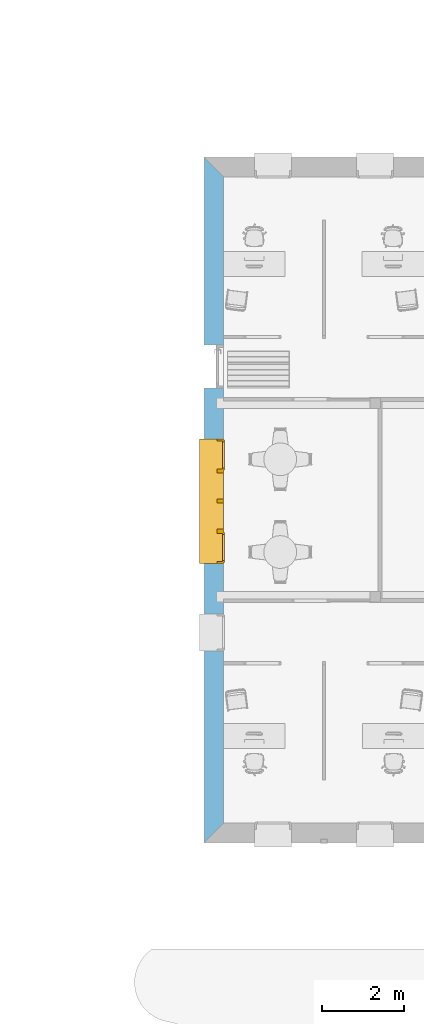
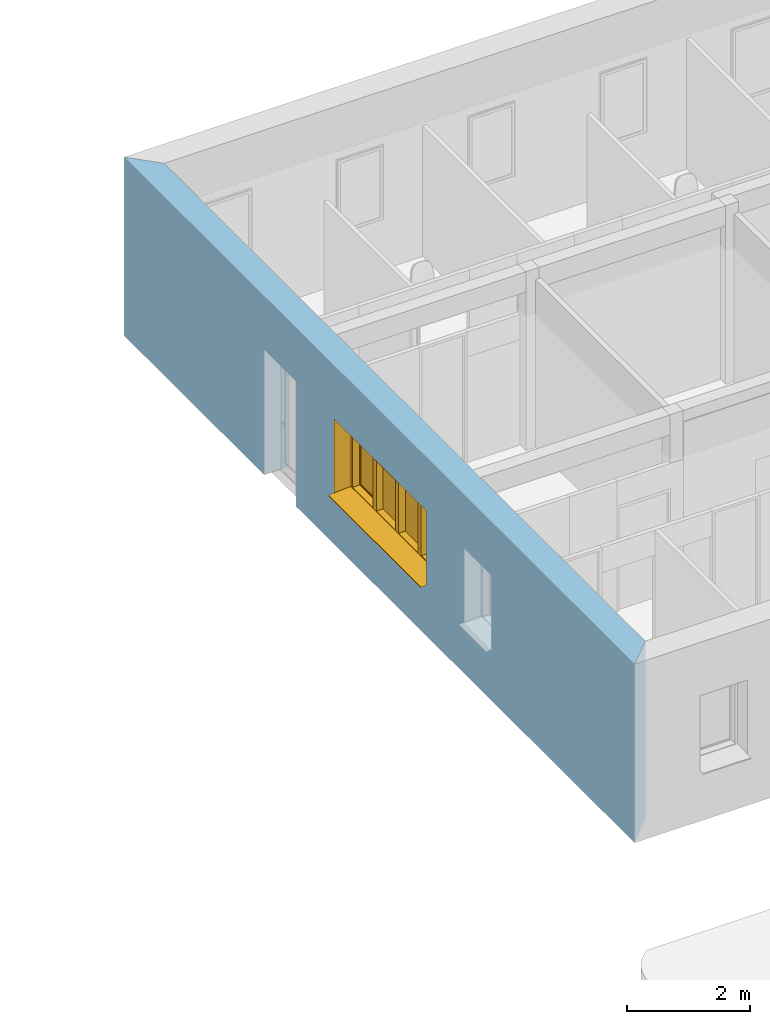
# One storey, part 38 of 91: 1 window, 3 openings, plus 1 element that does not belong to this part.
"""IFC2X3 building model written with IfcOpenShell, lengths in metres."""

from ifc_helpers import new_model, entity, si_unit, converted_unit, derived_unit, money_unit, direction, frame, origin_with_axes, origin_2d_with_axis, place, context, subcontext, project, spatial, polyline, rectangle, outline, extrude, open_shell, faceted_brep, surface_model, material, layer, layer_set, layer_usage, type_object, element, fill, save


model = new_model("IFC2X3")

# Units and contexts
model_context = context("Model", 3, precision=1e-05, world=origin_with_axes(), true_north=direction((0.0, 1.0)))
body_context = subcontext(model_context, "Body", "Model", "MODEL_VIEW")
ifc_project = project(units=[si_unit("LENGTHUNIT", "METRE"), si_unit("AREAUNIT", "SQUARE_METRE"), si_unit("VOLUMEUNIT", "CUBIC_METRE"), converted_unit("PLANEANGLEUNIT", "DEGREE", entity("IfcPlaneAngleMeasure", 0.0174532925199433), si_unit("PLANEANGLEUNIT", "RADIAN"), dimensions=[0, 0, 0, 0, 0, 0, 0]), money_unit("EUR"), converted_unit("TIMEUNIT", "Year", entity("IfcTimeMeasure", 31557600.0), si_unit("TIMEUNIT", "SECOND"), dimensions=[0, 0, 1, 0, 0, 0, 0]), si_unit("MASSUNIT", "GRAM", prefix="KILO"), si_unit("THERMODYNAMICTEMPERATUREUNIT", "DEGREE_CELSIUS"), si_unit("LUMINOUSINTENSITYUNIT", "LUMEN"), si_unit("ENERGYUNIT", "JOULE", prefix="MEGA"), derived_unit("THERMALCONDUCTANCEUNIT", [(si_unit("POWERUNIT", "WATT"), 1), (si_unit("LENGTHUNIT", "METRE"), -1), (si_unit("THERMODYNAMICTEMPERATUREUNIT", "KELVIN"), -1)]), derived_unit("SPECIFICHEATCAPACITYUNIT", [(si_unit("ENERGYUNIT", "JOULE"), 1), (si_unit("MASSUNIT", "GRAM", prefix="KILO"), -1), (si_unit("THERMODYNAMICTEMPERATUREUNIT", "KELVIN"), -1)]), derived_unit("MASSDENSITYUNIT", [(si_unit("MASSUNIT", "GRAM", prefix="KILO"), 1), (si_unit("VOLUMEUNIT", "CUBIC_METRE"), -1)])], contexts=[model_context])

# Site, building, storey
site_placement = place(None, origin_with_axes())
site = spatial("IfcSite", under=ifc_project, at=site_placement, Name="Site", CompositionType="ELEMENT")
building_placement = place(site_placement, origin_with_axes())
building = spatial("IfcBuilding", under=site, at=building_placement, Name="Bâtiment", CompositionType="ELEMENT")
storey_placement = place(building_placement, origin_with_axes())
storey = spatial("IfcBuildingStorey", under=building, at=storey_placement, Name="RDC", CompositionType="ELEMENT", Elevation=0.0)

# Wall, openings, window
ifc_material_1 = material(Name="*MÉTAL- BARDAGE")
ifc_layer_1 = layer(ifc_material_1, 0.04, ventilated="UNKNOWN")
ifc_material_2 = material(Name="Divers - Vide faux plafond")
ifc_layer_2 = layer(ifc_material_2, 0.05, ventilated="UNKNOWN")
ifc_material_3 = material(Name="Finition int - Enduit plâtre")
ifc_layer_3 = layer(ifc_material_3, 0.01, ventilated="UNKNOWN")
ifc_material_4 = material(Name="*GENERIQUE - MAÇONNERIE")
ifc_layer_4 = layer(ifc_material_4, 0.2, ventilated="UNKNOWN")
ifc_layer_5 = layer(ifc_material_3, 0.01, ventilated="UNKNOWN")
ifc_material_5 = material(Name="Vide pour liteaux")
ifc_layer_6 = layer(ifc_material_5, 0.01, ventilated="UNKNOWN")
ifc_material_6 = material(Name="*GENERIQUE - ISOLATION PLANCHER")
ifc_layer_7 = layer(ifc_material_6, 0.14, ventilated="UNKNOWN")
ifc_material_7 = material(Name="*PLAQUE DE PLATRE - DOUBLAGE")
ifc_layer_8 = layer(ifc_material_7, 0.018, ventilated="UNKNOWN")
ifc_layer_set = layer_set([ifc_layer_1, ifc_layer_2, ifc_layer_3, ifc_layer_4, ifc_layer_5, ifc_layer_6, ifc_layer_7, ifc_layer_8], Name="*MACONNERIE ITI BARDAGE METAL")
ifc_layer_usage = layer_usage(ifc_layer_set, "AXIS2", "POSITIVE", -0.478)
wall_type = type_object("IfcWallType", Name="*MACONNERIE ITI BARDAGE METAL 478", PredefinedType="NOTDEFINED")
wall_placement = place(storey_placement, frame((25.09999999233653, -11.25756213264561, 0.0), z_axis=(0.0, 0.0, 1.0), x_axis=(0.0, -1.0, 0.0)))
wall = element("IfcWallStandardCase", 1, at=wall_placement, inside=storey, type_object=wall_type, material=ifc_layer_usage, Name="Mur maçonné + ITI + véture métallique", context=body_context, shape_type="SweptSolid", body=[
    extrude(outline(polyline([(-0.477999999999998, -0.4780000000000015), (16.17800002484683, -0.4780000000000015), (15.70000002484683, 0.0), (0.0, 0.0), (-0.477999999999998, -0.4780000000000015)])), origin_with_axes(), (0.0, 0.0, 1.0), 3.56),
])
opening_1_placement = place(wall_placement, frame((7.877000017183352, 0.0, 1.0), z_axis=(0.0, 0.0, 1.0), x_axis=(1.0, 0.0, 0.0)))
opening_1 = element("IfcOpeningElement", 2, at=opening_1_placement, cuts=wall, Name="ME.04", context=body_context, shape_type="SweptSolid", body=[
    extrude(rectangle(XDim=3.027999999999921, YDim=1.5, at=origin_2d_with_axis()), frame((0.0, -0.1580000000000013, 0.75), z_axis=(0.0, -1.0, 0.0), x_axis=(-1.0, 0.0, 0.0)), (0.0, 0.0, 1.0), 0.798),
    extrude(rectangle(XDim=3.027999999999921, YDim=1.5, at=origin_2d_with_axis()), frame((0.0, -0.1580000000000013, 0.75), z_axis=(0.0, 1.0, 0.0), x_axis=(-1.0, 0.0, 0.0)), (0.0, 0.0, 1.0), 0.6360000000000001),
])
opening_2_placement = place(wall_placement, frame((11.06500000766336, 0.0, 1.0), z_axis=(0.0, 0.0, 1.0), x_axis=(1.0, 0.0, 0.0)))
element("IfcOpeningElement", 3, at=opening_2_placement, cuts=wall, Name="ME.01", context=body_context, shape_type="SweptSolid", body=[
    extrude(rectangle(XDim=0.8999999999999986, YDim=1.5, at=origin_2d_with_axis()), frame((0.0, -0.1580000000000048, 0.75), z_axis=(0.0, -1.0, 0.0), x_axis=(-1.0, 0.0, 0.0)), (0.0, 0.0, 1.0), 0.798),
    extrude(rectangle(XDim=0.8999999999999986, YDim=1.5, at=origin_2d_with_axis()), frame((0.0, -0.1580000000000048, 0.75), z_axis=(0.0, 1.0, 0.0), x_axis=(-1.0, 0.0, 0.0)), (0.0, 0.0, 1.0), 0.6360000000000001),
])
opening_3_placement = place(wall_placement, frame((4.610000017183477, 0.0, 0.0), z_axis=(0.0, 0.0, 1.0), x_axis=(1.0, 0.0, 0.0)))
element("IfcOpeningElement", 4, at=opening_3_placement, cuts=wall, Name="PE.03", context=body_context, shape_type="SweptSolid", body=[
    extrude(rectangle(XDim=1.049999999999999, YDim=2.5, at=origin_2d_with_axis()), frame((0.0, -0.1580000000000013, 1.25), z_axis=(0.0, -1.0, 0.0), x_axis=(1.0, 0.0, 0.0)), (0.0, 0.0, 1.0), 0.798),
    extrude(rectangle(XDim=1.049999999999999, YDim=2.5, at=origin_2d_with_axis()), frame((0.0, -0.1580000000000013, 1.25), z_axis=(0.0, 1.0, 0.0), x_axis=(1.0, 0.0, 0.0)), (0.0, 0.0, 1.0), 0.6360000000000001),
])
window_style = type_object("IfcWindowStyle", Name="Fenêtre horizontale à châssis multiples 27", ConstructionType="NOTDEFINED", OperationType="USERDEFINED", ParameterTakesPrecedence=False, Sizeable=False)
window_placement = place(opening_1_placement, frame((-1.51399999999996, 0.0, 0.0), z_axis=(0.0, 0.0, 1.0), x_axis=(1.0, 0.0, 0.0)))
window = element("IfcWindow", 5, at=window_placement, inside=storey, type_object=window_style, Name="ME.04", OverallHeight=1.5, OverallWidth=3.028, context=body_context, shape_type="SurfaceModel", body=[
    surface_model("IfcShellBasedSurfaceModel", [(3.027999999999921, -0.1590000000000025, 0.05000000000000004), (0.0, -0.1590000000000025, 0.05000000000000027), (0.0, -0.1590000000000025, 0.04000000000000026), (3.027999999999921, -0.1590000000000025, 0.04000000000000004), (0.0, -0.583000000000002, 0.01343750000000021), (3.027999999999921, -0.583000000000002, 0.01343749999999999), (0.0, -0.583000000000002, -0.006562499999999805), (3.027999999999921, -0.583000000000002, -0.006562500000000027), (0.0, -0.5730000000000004, 0.003437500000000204), (3.027999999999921, -0.5730000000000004, 0.003437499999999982)], [open_shell([[[0, 1, 2, 3]], [[3, 2, 4, 5]], [[5, 4, 6, 7]], [[7, 6, 8, 9]]])]),
    faceted_brep([(3.02499999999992, -0.4780000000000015, 0.02001547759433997), (3.02499999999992, -0.4780000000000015, 1.497), (3.02499999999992, -0.1580000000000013, 1.497), (3.02499999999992, -0.1580000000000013, 0.05000000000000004), (3.02499999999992, -0.1590000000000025, 0.05000000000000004), (3.02499999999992, -0.1590000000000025, 0.04000000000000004), (3.027999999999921, -0.4780000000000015, 0.02001547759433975), (3.027999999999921, -0.4780000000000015, 1.5), (3.027999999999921, -0.1580000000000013, 1.5), (3.027999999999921, -0.1580000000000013, 0.05000000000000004), (3.027999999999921, -0.1590000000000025, 0.05000000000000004), (3.027999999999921, -0.1590000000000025, 0.04000000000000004)], [[[0, 1, 2, 3, 4, 5]], [[6, 7, 1, 0]], [[8, 2, 1, 7]], [[3, 2, 8, 9]], [[3, 9, 10, 4]], [[4, 10, 11, 5]], [[5, 11, 6, 0]], [[11, 10, 9, 8, 7, 6]]]),
    faceted_brep([(0.0, -0.4780000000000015, 0.02001547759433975), (0.0, -0.4780000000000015, 1.5), (0.0, -0.1580000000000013, 1.5), (0.0, -0.1580000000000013, 0.05000000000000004), (0.0, -0.1590000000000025, 0.05000000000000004), (0.0, -0.1590000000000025, 0.04000000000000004), (0.003000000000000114, -0.4780000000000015, 0.02001547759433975), (0.003000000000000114, -0.4780000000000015, 1.497), (0.003000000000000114, -0.1580000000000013, 1.497), (0.003000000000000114, -0.1580000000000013, 0.05000000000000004), (0.003000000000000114, -0.1590000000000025, 0.05000000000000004), (0.003000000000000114, -0.1590000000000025, 0.04000000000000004)], [[[0, 1, 2, 3, 4, 5]], [[6, 7, 1, 0]], [[8, 2, 1, 7]], [[3, 2, 8, 9]], [[3, 9, 10, 4]], [[4, 10, 11, 5]], [[5, 11, 6, 0]], [[11, 10, 9, 8, 7, 6]]]),
    faceted_brep([(3.027999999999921, -0.1580000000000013, 1.5), (3.027999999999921, -0.4780000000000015, 1.5), (3.02499999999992, -0.4780000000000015, 1.497), (3.02499999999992, -0.1580000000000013, 1.497), (0.0, -0.1580000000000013, 1.5), (0.0, -0.4780000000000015, 1.5), (0.003000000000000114, -0.4780000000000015, 1.497), (0.003000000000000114, -0.1580000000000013, 1.497)], [[[0, 1, 2, 3]], [[4, 5, 1, 0]], [[1, 5, 6, 2]], [[3, 2, 6, 7]], [[0, 3, 7, 4]], [[7, 6, 5, 4]]]),
    faceted_brep([(3.002999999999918, 0.001999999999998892, 1.45), (3.002999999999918, -0.02299999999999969, 1.45), (2.97799999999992, -0.02299999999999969, 1.45), (2.97799999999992, -0.1580000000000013, 1.45), (3.027999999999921, -0.1580000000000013, 1.45), (3.027999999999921, 0.001999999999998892, 1.45), (3.002999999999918, 0.001999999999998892, 0.05000000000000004), (3.002999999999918, -0.02299999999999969, 0.05000000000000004), (2.97799999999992, -0.02299999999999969, 0.05000000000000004), (2.97799999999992, -0.1580000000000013, 0.05000000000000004), (3.027999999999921, -0.1580000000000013, 0.05000000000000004), (3.027999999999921, 0.001999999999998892, 0.05000000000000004)], [[[0, 1, 2, 3, 4, 5]], [[1, 0, 6, 7]], [[8, 2, 1, 7]], [[2, 8, 9, 3]], [[4, 3, 9, 10]], [[5, 4, 10, 11]], [[6, 0, 5, 11]], [[7, 6, 11, 10, 9, 8]]]),
    faceted_brep([(0.05000000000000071, -0.02299999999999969, 1.45), (0.02500000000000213, -0.02299999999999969, 1.45), (0.02500000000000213, 0.001999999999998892, 1.45), (0.0, 0.001999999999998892, 1.45), (0.0, -0.1580000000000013, 1.45), (0.05000000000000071, -0.1580000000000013, 1.45), (0.05000000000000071, -0.02299999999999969, 0.05000000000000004), (0.02500000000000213, -0.02299999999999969, 0.05000000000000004), (0.02500000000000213, 0.001999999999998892, 0.05000000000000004), (0.0, 0.001999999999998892, 0.05000000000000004), (0.0, -0.1580000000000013, 0.05000000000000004), (0.05000000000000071, -0.1580000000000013, 0.05000000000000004)], [[[0, 1, 2, 3, 4, 5]], [[1, 0, 6, 7]], [[8, 2, 1, 7]], [[2, 8, 9, 3]], [[9, 10, 4, 3]], [[10, 11, 5, 4]], [[6, 0, 5, 11]], [[7, 6, 11, 10, 9, 8]]]),
    faceted_brep([(3.002999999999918, 0.001999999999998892, 1.45), (3.002999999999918, 0.001999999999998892, 1.475), (2.27099999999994, 0.001999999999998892, 1.475), (2.27099999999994, 0.001999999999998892, 1.45), (2.195999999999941, 0.001999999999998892, 1.45), (1.563999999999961, 0.001999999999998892, 1.45), (1.46399999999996, 0.001999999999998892, 1.45), (0.8319999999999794, 0.001999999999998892, 1.45), (0.7569999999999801, 0.001999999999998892, 1.45), (0.7569999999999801, 0.001999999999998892, 1.475), (0.02500000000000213, 0.001999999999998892, 1.475), (0.02500000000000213, 0.001999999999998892, 1.45), (0.0, 0.001999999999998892, 1.45), (0.0, 0.001999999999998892, 1.5), (3.027999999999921, 0.001999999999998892, 1.5), (3.027999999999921, 0.001999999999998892, 1.45), (3.002999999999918, -0.02299999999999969, 1.45), (3.002999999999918, -0.02300000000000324, 1.475), (2.27099999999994, -0.02299999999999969, 1.475), (2.27099999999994, -0.02299999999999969, 1.45), (2.295999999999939, -0.02299999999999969, 1.45), (2.295999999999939, -0.1580000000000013, 1.45), (2.195999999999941, -0.1580000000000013, 1.45), (1.563999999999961, -0.1580000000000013, 1.45), (1.46399999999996, -0.1580000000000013, 1.45), (0.8319999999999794, -0.1580000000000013, 1.45), (0.7569999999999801, -0.02299999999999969, 1.45), (0.7319999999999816, -0.1580000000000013, 1.45), (0.7319999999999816, -0.02299999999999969, 1.45), (0.7569999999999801, -0.02299999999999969, 1.475), (0.02500000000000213, -0.02299999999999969, 1.475), (0.02500000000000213, -0.02299999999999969, 1.45), (0.05000000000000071, -0.02299999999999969, 1.45), (0.05000000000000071, -0.1580000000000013, 1.45), (0.0, -0.1580000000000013, 1.45), (0.0, -0.1580000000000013, 1.5), (3.027999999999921, -0.1580000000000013, 1.5), (3.027999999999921, -0.1580000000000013, 1.45), (2.97799999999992, -0.1580000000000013, 1.45), (2.97799999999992, -0.02299999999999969, 1.45)], [[[0, 1, 2, 3, 4, 5, 6, 7, 8, 9, 10, 11, 12, 13, 14, 15]], [[1, 0, 16, 17]], [[2, 1, 17, 18]], [[3, 2, 18, 19]], [[19, 20, 21, 22, 4, 3]], [[4, 22, 23, 5]], [[5, 23, 24, 6]], [[6, 24, 25, 7]], [[26, 8, 7, 25, 27, 28]], [[9, 8, 26, 29]], [[10, 9, 29, 30]], [[11, 10, 30, 31]], [[31, 32, 33, 34, 12, 11]], [[12, 34, 35, 13]], [[13, 35, 36, 14]], [[14, 36, 37, 15]], [[16, 0, 15, 37, 38, 39]], [[20, 19, 18, 17, 16, 39]], [[20, 39, 38, 21]], [[34, 33, 27, 25, 24, 23, 22, 21, 38, 37, 36, 35]], [[32, 28, 27, 33]], [[32, 31, 30, 29, 26, 28]]]),
    faceted_brep([(2.295999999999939, -0.02299999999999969, 0.05000000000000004), (2.27099999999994, -0.02299999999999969, 0.05000000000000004), (2.27099999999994, 0.001999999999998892, 0.05000000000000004), (2.195999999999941, 0.001999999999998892, 0.05000000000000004), (2.195999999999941, -0.1580000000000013, 0.05000000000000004), (2.295999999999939, -0.1580000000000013, 0.05000000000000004), (2.97799999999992, -0.02299999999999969, 0.05000000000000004), (3.002999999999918, -0.02299999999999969, 0.05000000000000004), (3.002999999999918, -0.02299999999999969, 0.02500000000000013), (2.27099999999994, -0.02299999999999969, 0.02500000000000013), (2.27099999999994, 0.001999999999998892, 0.02500000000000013), (3.002999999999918, 0.001999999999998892, 0.02500000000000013), (3.002999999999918, 0.001999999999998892, 0.05000000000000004), (3.027999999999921, 0.001999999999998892, 0.05000000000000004), (3.027999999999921, 0.001999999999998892, 0.0), (0.0, 0.001999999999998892, 0.0), (0.0, 0.001999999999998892, 0.05000000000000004), (0.02500000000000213, 0.001999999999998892, 0.05000000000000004), (0.02500000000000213, 0.001999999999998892, 0.02500000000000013), (0.7569999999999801, 0.001999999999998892, 0.02500000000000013), (0.7569999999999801, 0.001999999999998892, 0.05000000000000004), (0.8319999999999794, 0.001999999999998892, 0.05000000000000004), (1.46399999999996, 0.001999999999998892, 0.05000000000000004), (1.563999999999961, 0.001999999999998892, 0.05000000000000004), (1.563999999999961, -0.1580000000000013, 0.05000000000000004), (0.8319999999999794, -0.1580000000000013, 0.05000000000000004), (0.7319999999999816, -0.1580000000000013, 0.05000000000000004), (0.05000000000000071, -0.1580000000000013, 0.05000000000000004), (0.0, -0.1580000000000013, 0.05000000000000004), (0.0, -0.1580000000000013, 0.0), (3.027999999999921, -0.1580000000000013, 0.0), (3.027999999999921, -0.1580000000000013, 0.05000000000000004), (2.97799999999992, -0.1580000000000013, 0.05000000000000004), (1.46399999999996, -0.1580000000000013, 0.05000000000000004), (0.05000000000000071, -0.02299999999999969, 0.05000000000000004), (0.02500000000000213, -0.02299999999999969, 0.05000000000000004), (0.02500000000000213, -0.02299999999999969, 0.02500000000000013), (0.7569999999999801, -0.02299999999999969, 0.02500000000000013), (0.7569999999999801, -0.02299999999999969, 0.05000000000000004), (0.7319999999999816, -0.02299999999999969, 0.05000000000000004)], [[[0, 1, 2, 3, 4, 5]], [[1, 0, 6, 7, 8, 9]], [[10, 2, 1, 9]], [[11, 12, 13, 14, 15, 16, 17, 18, 19, 20, 21, 22, 23, 3, 2, 10]], [[23, 24, 4, 3]], [[25, 26, 27, 28, 29, 30, 31, 32, 5, 4, 24, 33]], [[6, 0, 5, 32]], [[7, 6, 32, 31, 13, 12]], [[7, 12, 11, 8]], [[11, 10, 9, 8]], [[13, 31, 30, 14]], [[14, 30, 29, 15]], [[15, 29, 28, 16]], [[34, 35, 17, 16, 28, 27]], [[18, 17, 35, 36]], [[19, 18, 36, 37]], [[38, 20, 19, 37]], [[38, 39, 26, 25, 21, 20]], [[21, 25, 33, 22]], [[22, 33, 24, 23]], [[39, 34, 27, 26]], [[35, 34, 39, 38, 37, 36]]]),
    faceted_brep([(2.295999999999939, -0.02299999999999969, 1.45), (2.27099999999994, -0.02299999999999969, 1.45), (2.27099999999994, 0.001999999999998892, 1.45), (2.195999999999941, 0.001999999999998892, 1.45), (2.195999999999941, -0.1580000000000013, 1.45), (2.295999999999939, -0.1580000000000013, 1.45), (2.295999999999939, -0.02299999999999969, 0.05000000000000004), (2.27099999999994, -0.02299999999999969, 0.05000000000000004), (2.27099999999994, 0.001999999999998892, 0.05000000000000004), (2.195999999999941, 0.001999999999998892, 0.05000000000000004), (2.195999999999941, -0.1580000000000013, 0.05000000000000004), (2.295999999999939, -0.1580000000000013, 0.05000000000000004)], [[[0, 1, 2, 3, 4, 5]], [[1, 0, 6, 7]], [[8, 2, 1, 7]], [[2, 8, 9, 3]], [[9, 10, 4, 3]], [[4, 10, 11, 5]], [[6, 0, 5, 11]], [[7, 6, 11, 10, 9, 8]]]),
    faceted_brep([(1.46399999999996, 0.001999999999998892, 0.05000000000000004), (1.46399999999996, -0.1580000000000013, 0.05000000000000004), (1.46399999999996, -0.1580000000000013, 1.45), (1.46399999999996, 0.001999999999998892, 1.45), (1.563999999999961, 0.001999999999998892, 0.05000000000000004), (1.563999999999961, -0.1580000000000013, 0.05000000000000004), (1.563999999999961, -0.1580000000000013, 1.45), (1.563999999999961, 0.001999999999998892, 1.45)], [[[0, 1, 2, 3]], [[4, 5, 1, 0]], [[2, 1, 5, 6]], [[3, 2, 6, 7]], [[4, 0, 3, 7]], [[7, 6, 5, 4]]]),
    faceted_brep([(0.7569999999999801, 0.001999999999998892, 1.45), (0.7569999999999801, -0.02299999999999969, 1.45), (0.7319999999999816, -0.02299999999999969, 1.45), (0.7319999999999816, -0.1580000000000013, 1.45), (0.8319999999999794, -0.1580000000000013, 1.45), (0.8319999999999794, 0.001999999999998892, 1.45), (0.7569999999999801, 0.001999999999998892, 0.05000000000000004), (0.7569999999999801, -0.02299999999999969, 0.05000000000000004), (0.7319999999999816, -0.02299999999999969, 0.05000000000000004), (0.7319999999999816, -0.1580000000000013, 0.05000000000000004), (0.8319999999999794, -0.1580000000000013, 0.05000000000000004), (0.8319999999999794, 0.001999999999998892, 0.05000000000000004)], [[[0, 1, 2, 3, 4, 5]], [[1, 0, 6, 7]], [[8, 2, 1, 7]], [[2, 8, 9, 3]], [[3, 9, 10, 4]], [[5, 4, 10, 11]], [[6, 0, 5, 11]], [[7, 6, 11, 10, 9, 8]]]),
    faceted_brep([(2.952999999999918, -0.02299999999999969, 1.425), (3.002999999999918, -0.02299999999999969, 1.425), (3.002999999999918, 0.02699999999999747, 1.425), (2.952999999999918, 0.02699999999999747, 1.425), (2.952999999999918, -0.02299999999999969, 0.07499999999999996), (3.002999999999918, -0.02299999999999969, 0.07499999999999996), (3.002999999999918, 0.02699999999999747, 0.07499999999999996), (2.952999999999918, 0.02699999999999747, 0.07499999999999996)], [[[0, 1, 2, 3]], [[0, 4, 5, 1]], [[1, 5, 6, 2]], [[3, 2, 6, 7]], [[4, 0, 3, 7]], [[5, 4, 7, 6]]]),
    faceted_brep([(2.320999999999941, -0.02299999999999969, 0.07499999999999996), (2.27099999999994, -0.02299999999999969, 0.07499999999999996), (2.27099999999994, 0.02699999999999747, 0.07499999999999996), (2.320999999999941, 0.02699999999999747, 0.07499999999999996), (2.320999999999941, -0.02299999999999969, 1.425), (2.27099999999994, -0.02299999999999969, 1.425), (2.27099999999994, 0.02699999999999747, 1.425), (2.320999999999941, 0.02699999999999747, 1.425)], [[[0, 1, 2, 3]], [[0, 4, 5, 1]], [[1, 5, 6, 2]], [[3, 2, 6, 7]], [[4, 0, 3, 7]], [[5, 4, 7, 6]]]),
    faceted_brep([(2.27099999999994, -0.02299999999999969, 0.02499999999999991), (2.27099999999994, -0.02299999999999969, 0.07499999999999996), (2.27099999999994, 0.02699999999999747, 0.07499999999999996), (2.27099999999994, 0.02699999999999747, 0.02499999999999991), (3.002999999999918, -0.02299999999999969, 0.02499999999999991), (3.002999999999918, -0.02299999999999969, 0.07499999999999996), (2.952999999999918, -0.02299999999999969, 0.07499999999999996), (2.320999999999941, -0.02299999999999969, 0.07499999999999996), (2.320999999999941, 0.02699999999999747, 0.07499999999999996), (2.952999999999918, 0.02699999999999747, 0.07499999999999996), (3.002999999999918, 0.02699999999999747, 0.07499999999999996), (3.002999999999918, 0.02699999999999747, 0.02499999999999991)], [[[0, 1, 2, 3]], [[0, 4, 5, 6, 7, 1]], [[1, 7, 8, 2]], [[3, 2, 8, 9, 10, 11]], [[4, 0, 3, 11]], [[5, 4, 11, 10]], [[6, 5, 10, 9]], [[7, 6, 9, 8]]]),
    faceted_brep([(3.002999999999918, -0.02299999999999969, 1.475), (3.002999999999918, -0.02299999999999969, 1.425), (3.002999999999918, 0.02699999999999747, 1.425), (3.002999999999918, 0.02699999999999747, 1.475), (2.27099999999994, -0.02299999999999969, 1.475), (2.27099999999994, -0.02299999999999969, 1.425), (2.320999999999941, -0.02299999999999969, 1.425), (2.952999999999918, -0.02299999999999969, 1.425), (2.952999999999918, 0.02699999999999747, 1.425), (2.320999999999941, 0.02699999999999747, 1.425), (2.27099999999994, 0.02699999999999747, 1.425), (2.27099999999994, 0.02699999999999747, 1.475)], [[[0, 1, 2, 3]], [[0, 4, 5, 6, 7, 1]], [[1, 7, 8, 2]], [[3, 2, 8, 9, 10, 11]], [[4, 0, 3, 11]], [[5, 4, 11, 10]], [[6, 5, 10, 9]], [[7, 6, 9, 8]]]),
    surface_model("IfcShellBasedSurfaceModel", [(2.952999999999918, -0.008000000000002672, 0.07499999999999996), (2.952999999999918, -0.008000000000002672, 1.425), (2.320999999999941, -0.008000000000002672, 1.425), (2.320999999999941, -0.008000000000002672, 0.07499999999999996)], [open_shell([[[0, 1, 2, 3]]])]),
    surface_model("IfcShellBasedSurfaceModel", [(2.952999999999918, 0.0119999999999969, 0.07499999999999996), (2.320999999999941, 0.01200000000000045, 0.07499999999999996), (2.320999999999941, 0.0119999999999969, 1.425), (2.952999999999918, 0.0119999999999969, 1.425)], [open_shell([[[0, 1, 2, 3]]])]),
    surface_model("IfcShellBasedSurfaceModel", [(2.195999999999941, -0.03300000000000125, 0.05000000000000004), (2.195999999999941, -0.03300000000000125, 1.45), (1.563999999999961, -0.03300000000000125, 1.45), (1.563999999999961, -0.03300000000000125, 0.05000000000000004)], [open_shell([[[0, 1, 2, 3]]])]),
    surface_model("IfcShellBasedSurfaceModel", [(2.195999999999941, -0.01300000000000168, 0.05000000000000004), (1.563999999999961, -0.01300000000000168, 0.05000000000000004), (1.563999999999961, -0.01300000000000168, 1.45), (2.195999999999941, -0.01300000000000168, 1.45)], [open_shell([[[0, 1, 2, 3]]])]),
    surface_model("IfcShellBasedSurfaceModel", [(1.46399999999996, -0.03300000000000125, 0.05000000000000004), (1.46399999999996, -0.03300000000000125, 1.45), (0.8319999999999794, -0.03300000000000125, 1.45), (0.8319999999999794, -0.03300000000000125, 0.05000000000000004)], [open_shell([[[0, 1, 2, 3]]])]),
    surface_model("IfcShellBasedSurfaceModel", [(1.46399999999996, -0.01300000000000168, 0.05000000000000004), (0.8319999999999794, -0.01300000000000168, 0.05000000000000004), (0.8319999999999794, -0.01300000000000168, 1.45), (1.46399999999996, -0.01300000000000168, 1.45)], [open_shell([[[0, 1, 2, 3]]])]),
    faceted_brep([(0.7069999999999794, -0.02299999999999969, 1.425), (0.7569999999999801, -0.02299999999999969, 1.425), (0.7569999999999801, 0.02699999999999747, 1.425), (0.7069999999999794, 0.02699999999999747, 1.425), (0.7069999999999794, -0.02299999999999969, 0.07499999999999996), (0.7569999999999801, -0.02299999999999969, 0.07499999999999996), (0.7569999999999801, 0.02699999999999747, 0.07499999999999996), (0.7069999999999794, 0.02699999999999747, 0.07499999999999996)], [[[0, 1, 2, 3]], [[0, 4, 5, 1]], [[1, 5, 6, 2]], [[3, 2, 6, 7]], [[4, 0, 3, 7]], [[5, 4, 7, 6]]]),
    faceted_brep([(0.07500000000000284, -0.02299999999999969, 0.07499999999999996), (0.02500000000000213, -0.02299999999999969, 0.07499999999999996), (0.02500000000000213, 0.02699999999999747, 0.07499999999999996), (0.07500000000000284, 0.02699999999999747, 0.07499999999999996), (0.07500000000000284, -0.02299999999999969, 1.425), (0.02500000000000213, -0.02299999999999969, 1.425), (0.02500000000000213, 0.02699999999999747, 1.425), (0.07500000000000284, 0.02699999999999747, 1.425)], [[[0, 1, 2, 3]], [[0, 4, 5, 1]], [[1, 5, 6, 2]], [[3, 2, 6, 7]], [[4, 0, 3, 7]], [[5, 4, 7, 6]]]),
    faceted_brep([(0.02500000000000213, -0.02299999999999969, 0.02499999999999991), (0.02500000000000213, -0.02299999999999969, 0.07499999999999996), (0.02500000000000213, 0.02699999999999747, 0.07499999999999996), (0.02500000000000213, 0.02699999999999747, 0.02499999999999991), (0.7569999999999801, -0.02299999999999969, 0.02499999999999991), (0.7569999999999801, -0.02299999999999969, 0.07499999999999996), (0.7069999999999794, -0.02299999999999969, 0.07499999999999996), (0.07500000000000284, -0.02299999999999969, 0.07499999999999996), (0.07500000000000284, 0.02699999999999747, 0.07499999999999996), (0.7069999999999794, 0.02699999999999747, 0.07499999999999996), (0.7569999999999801, 0.02699999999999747, 0.07499999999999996), (0.7569999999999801, 0.02699999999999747, 0.02499999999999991)], [[[0, 1, 2, 3]], [[0, 4, 5, 6, 7, 1]], [[1, 7, 8, 2]], [[3, 2, 8, 9, 10, 11]], [[4, 0, 3, 11]], [[5, 4, 11, 10]], [[6, 5, 10, 9]], [[7, 6, 9, 8]]]),
    faceted_brep([(0.7569999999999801, -0.02299999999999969, 1.475), (0.7569999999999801, -0.02299999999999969, 1.425), (0.7569999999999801, 0.02699999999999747, 1.425), (0.7569999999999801, 0.02699999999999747, 1.475), (0.02500000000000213, -0.02299999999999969, 1.475), (0.02500000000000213, -0.02299999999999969, 1.425), (0.07500000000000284, -0.02299999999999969, 1.425), (0.7069999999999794, -0.02299999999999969, 1.425), (0.7069999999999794, 0.02699999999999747, 1.425), (0.07500000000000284, 0.02699999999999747, 1.425), (0.02500000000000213, 0.02699999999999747, 1.425), (0.02500000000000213, 0.02699999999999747, 1.475)], [[[0, 1, 2, 3]], [[0, 4, 5, 6, 7, 1]], [[1, 7, 8, 2]], [[3, 2, 8, 9, 10, 11]], [[4, 0, 3, 11]], [[5, 4, 11, 10]], [[6, 5, 10, 9]], [[7, 6, 9, 8]]]),
    surface_model("IfcShellBasedSurfaceModel", [(0.7069999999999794, -0.008000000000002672, 0.07499999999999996), (0.7069999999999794, -0.008000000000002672, 1.425), (0.07500000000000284, -0.008000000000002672, 1.425), (0.07500000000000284, -0.007999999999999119, 0.07499999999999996)], [open_shell([[[0, 1, 2, 3]]])]),
    surface_model("IfcShellBasedSurfaceModel", [(0.7069999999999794, 0.01200000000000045, 0.07499999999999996), (0.07500000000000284, 0.01200000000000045, 0.07499999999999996), (0.07500000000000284, 0.01200000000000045, 1.425), (0.7069999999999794, 0.01200000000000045, 1.425)], [open_shell([[[0, 1, 2, 3]]])]),
])
fill(opening_1, window)

save(model, "model.ifc")
